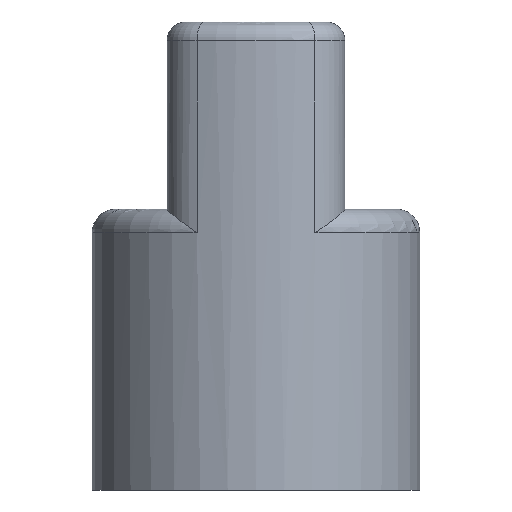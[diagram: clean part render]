
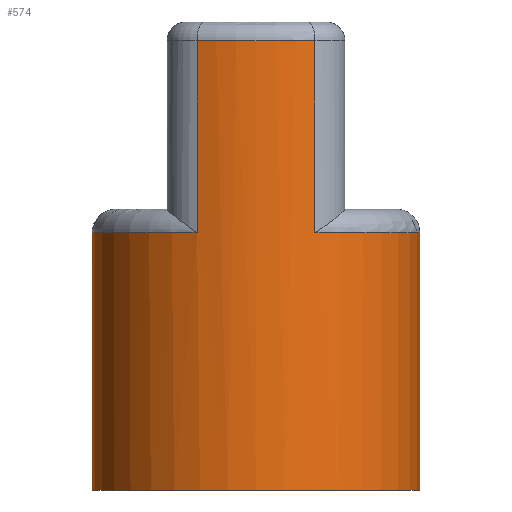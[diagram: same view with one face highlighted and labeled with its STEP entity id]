
A CAD part, left-side view. The second image highlights one B-rep face of the part: STEP entity #574.
In plain terms, the highlighted cylindrical face has radius 35 mm (diameter 70 mm), a full revolution.
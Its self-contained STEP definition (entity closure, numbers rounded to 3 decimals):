
#34=LINE('',#930,#69);
#43=LINE('',#982,#78);
#45=LINE('',#991,#80);
#46=LINE('',#996,#81);
#47=LINE('',#1000,#82);
#69=VECTOR('',#716,10.);
#78=VECTOR('',#747,10.);
#80=VECTOR('',#759,35.);
#81=VECTOR('',#764,10.);
#82=VECTOR('',#767,10.);
#112=CYLINDRICAL_SURFACE('',#639,35.);
#131=FACE_OUTER_BOUND('',#168,.T.);
#168=EDGE_LOOP('',(#419,#420,#421,#422,#423,#424,#425,#426,#427,#428,#429,
#430));
#211=CIRCLE('',#637,35.);
#212=CIRCLE('',#638,35.);
#213=CIRCLE('',#640,35.);
#214=CIRCLE('',#641,35.);
#215=CIRCLE('',#642,35.);
#216=CIRCLE('',#643,35.);
#245=VERTEX_POINT('',#911);
#246=VERTEX_POINT('',#915);
#258=VERTEX_POINT('',#959);
#263=VERTEX_POINT('',#969);
#264=VERTEX_POINT('',#986);
#265=VERTEX_POINT('',#990);
#266=VERTEX_POINT('',#993);
#267=VERTEX_POINT('',#995);
#268=VERTEX_POINT('',#997);
#269=VERTEX_POINT('',#999);
#302=EDGE_CURVE('',#245,#246,#34,.T.);
#320=EDGE_CURVE('',#263,#258,#43,.T.);
#323=EDGE_CURVE('',#258,#264,#211,.T.);
#324=EDGE_CURVE('',#264,#245,#212,.T.);
#325=EDGE_CURVE('',#264,#265,#45,.T.);
#326=EDGE_CURVE('',#265,#265,#213,.T.);
#327=EDGE_CURVE('',#266,#263,#214,.T.);
#328=EDGE_CURVE('',#267,#266,#46,.T.);
#329=EDGE_CURVE('',#268,#267,#215,.T.);
#330=EDGE_CURVE('',#269,#268,#47,.T.);
#331=EDGE_CURVE('',#246,#269,#216,.T.);
#419=ORIENTED_EDGE('',*,*,#302,.F.);
#420=ORIENTED_EDGE('',*,*,#324,.F.);
#421=ORIENTED_EDGE('',*,*,#325,.T.);
#422=ORIENTED_EDGE('',*,*,#326,.F.);
#423=ORIENTED_EDGE('',*,*,#325,.F.);
#424=ORIENTED_EDGE('',*,*,#323,.F.);
#425=ORIENTED_EDGE('',*,*,#320,.F.);
#426=ORIENTED_EDGE('',*,*,#327,.F.);
#427=ORIENTED_EDGE('',*,*,#328,.F.);
#428=ORIENTED_EDGE('',*,*,#329,.F.);
#429=ORIENTED_EDGE('',*,*,#330,.F.);
#430=ORIENTED_EDGE('',*,*,#331,.F.);
#574=ADVANCED_FACE('',(#131),#112,.T.);
#637=AXIS2_PLACEMENT_3D('',#987,#753,#754);
#638=AXIS2_PLACEMENT_3D('',#988,#755,#756);
#639=AXIS2_PLACEMENT_3D('',#989,#757,#758);
#640=AXIS2_PLACEMENT_3D('',#992,#760,#761);
#641=AXIS2_PLACEMENT_3D('',#994,#762,#763);
#642=AXIS2_PLACEMENT_3D('',#998,#765,#766);
#643=AXIS2_PLACEMENT_3D('',#1001,#768,#769);
#716=DIRECTION('',(0.,0.,-1.));
#747=DIRECTION('',(0.,0.,1.));
#753=DIRECTION('center_axis',(0.,0.,1.));
#754=DIRECTION('ref_axis',(-1.,0.,0.));
#755=DIRECTION('center_axis',(0.,0.,1.));
#756=DIRECTION('ref_axis',(-1.,0.,0.));
#757=DIRECTION('center_axis',(0.,0.,1.));
#758=DIRECTION('ref_axis',(1.,0.,0.));
#759=DIRECTION('',(0.,0.,-1.));
#760=DIRECTION('center_axis',(0.,0.,-1.));
#761=DIRECTION('ref_axis',(1.,0.,0.));
#762=DIRECTION('center_axis',(0.,0.,1.));
#763=DIRECTION('ref_axis',(1.,0.,0.));
#764=DIRECTION('',(0.,0.,-1.));
#765=DIRECTION('center_axis',(0.,0.,1.));
#766=DIRECTION('ref_axis',(1.,0.,0.));
#767=DIRECTION('',(0.,0.,1.));
#768=DIRECTION('center_axis',(0.,0.,1.));
#769=DIRECTION('ref_axis',(1.,0.,0.));
#911=CARTESIAN_POINT('',(-32.653,-12.6,91.));
#915=CARTESIAN_POINT('',(-32.653,-12.6,50.));
#930=CARTESIAN_POINT('',(-32.653,-12.6,0.));
#959=CARTESIAN_POINT('',(-32.653,12.6,91.));
#969=CARTESIAN_POINT('',(-32.653,12.6,50.));
#982=CARTESIAN_POINT('',(-32.653,12.6,0.));
#986=CARTESIAN_POINT('',(-35.,0.,91.));
#987=CARTESIAN_POINT('Origin',(0.,0.,91.));
#988=CARTESIAN_POINT('Origin',(0.,0.,91.));
#989=CARTESIAN_POINT('Origin',(0.,0.,0.));
#990=CARTESIAN_POINT('',(-35.,0.,-5.));
#991=CARTESIAN_POINT('',(-35.,0.,0.));
#992=CARTESIAN_POINT('Origin',(0.,0.,-5.));
#993=CARTESIAN_POINT('',(34.293,7.,50.));
#994=CARTESIAN_POINT('Origin',(0.,0.,50.));
#995=CARTESIAN_POINT('',(34.293,7.,91.));
#996=CARTESIAN_POINT('',(34.293,7.,0.));
#997=CARTESIAN_POINT('',(34.293,-7.,91.));
#998=CARTESIAN_POINT('Origin',(0.,0.,91.));
#999=CARTESIAN_POINT('',(34.293,-7.,50.));
#1000=CARTESIAN_POINT('',(34.293,-7.,0.));
#1001=CARTESIAN_POINT('Origin',(0.,0.,50.));
